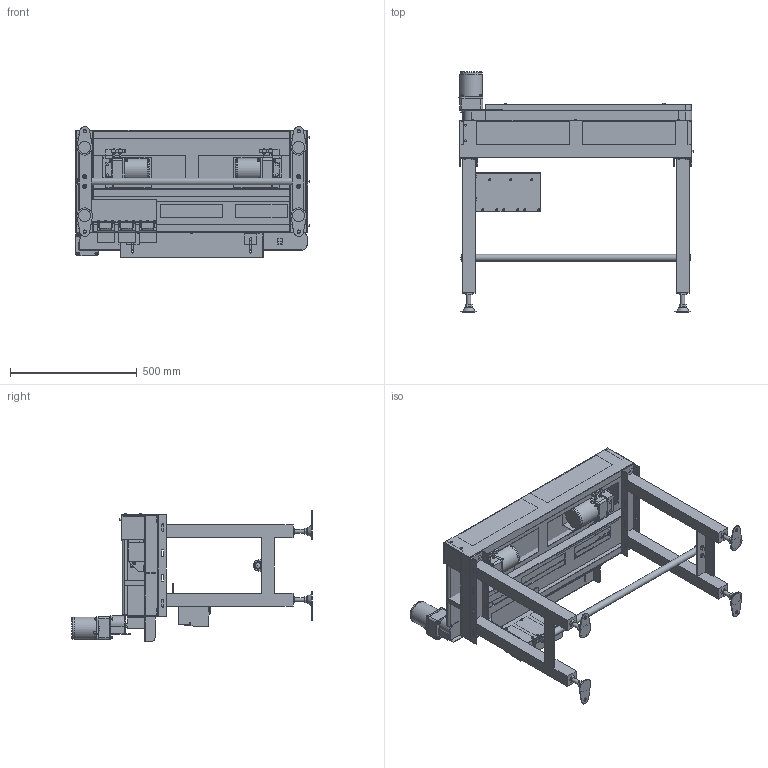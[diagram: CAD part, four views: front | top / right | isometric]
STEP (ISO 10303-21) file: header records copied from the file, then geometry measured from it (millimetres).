
FILE_DESCRIPTION( (''), '2;1');
FILE_NAME ('WEB-SGA-U-304x3-300-R-IVH-15-A.stp','2026-09-19T10:45:48',(''),(''),'spGate 21.9.5 (****-****-****-****)','','');
FILE_SCHEMA (('AUTOMOTIVE_DESIGN'));
Length unit declared in the file: millimetre
Products named in the file (91): WEB-SGA-U-304x3-300-R-IVH-15-A; TEMP_X_T-prt0; TEMP_X_T-prt1; TEMP_X_T-prt2; TEMP_X_T-prt3; TEMP_X_T-prt4; TEMP_X_T-prt5; TEMP_X_T-prt6; TEMP_X_T-prt7; TEMP_X_T-prt8; TEMP_X_T-prt9; TEMP_X_T-prt10; TEMP_X_T-prt11; TEMP_X_T-prt12; TEMP_X_T-prt13; TEMP_X_T-prt14; TEMP_X_T-prt15; TEMP_X_T-prt16; TEMP_X_T-prt17; TEMP_X_T-prt18; TEMP_X_T-prt19; TEMP_X_T-prt20; TEMP_X_T-prt21; TEMP_X_T-prt22; TEMP_X_T-prt23; TEMP_X_T-prt24; TEMP_X_T-prt25; TEMP_X_T-prt26; TEMP_X_T-prt27; TEMP_X_T-prt28; TEMP_X_T-prt29; TEMP_X_T-prt30; TEMP_X_T-prt31; TEMP_X_T-prt32; TEMP_X_T-prt33; TEMP_X_T-prt34; TEMP_X_T-prt35; TEMP_X_T-prt36; TEMP_X_T-prt37; TEMP_X_T-prt38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
Assembly tree (90 placements, depth 2):
  WEB-SGA-U-304x3-300-R-IVH-15-A
    TEMP_X_T-prt0
    TEMP_X_T-prt1
    TEMP_X_T-prt2
    TEMP_X_T-prt3
    TEMP_X_T-prt4
    TEMP_X_T-prt5
    TEMP_X_T-prt6
    TEMP_X_T-prt7
    TEMP_X_T-prt8
    TEMP_X_T-prt9
    TEMP_X_T-prt10
    TEMP_X_T-prt11
    TEMP_X_T-prt12
    TEMP_X_T-prt13
    TEMP_X_T-prt14
    TEMP_X_T-prt15
    TEMP_X_T-prt16
    TEMP_X_T-prt17
    TEMP_X_T-prt18
    TEMP_X_T-prt19
    TEMP_X_T-prt20
    TEMP_X_T-prt21
    TEMP_X_T-prt22
    TEMP_X_T-prt23
    TEMP_X_T-prt24
    TEMP_X_T-prt25
    TEMP_X_T-prt26
    TEMP_X_T-prt27
    TEMP_X_T-prt28
    TEMP_X_T-prt29
    TEMP_X_T-prt30
    TEMP_X_T-prt31
    TEMP_X_T-prt32
    TEMP_X_T-prt33
    TEMP_X_T-prt34
    TEMP_X_T-prt35
    TEMP_X_T-prt36
    TEMP_X_T-prt37
    TEMP_X_T-prt38
    TEMP_X_T-prt39
    TEMP_X_T-prt40
    TEMP_X_T-prt41
    TEMP_X_T-prt42
    TEMP_X_T-prt43
    TEMP_X_T-prt44
    TEMP_X_T-prt45
    TEMP_X_T-prt46
    TEMP_X_T-prt47
    TEMP_X_T-prt48
    TEMP_X_T-prt49
    TEMP_X_T-prt50
    TEMP_X_T-prt51
    TEMP_X_T-prt52
    TEMP_X_T-prt53
    TEMP_X_T-prt54
    TEMP_X_T-prt55
    TEMP_X_T-prt56
    TEMP_X_T-prt57
    TEMP_X_T-prt58
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Bounding box: 924.17 x 948 x 517 mm (x, y, z)
Volume: 22522852.5 mm3; surface area: 5040399.5 mm2
Topology: 90 solids, 91 shells, 2630 faces, 6766 edges, 4486 vertices
Faces by surface type: plane 1970, cylinder 458, bspline 202
Full cylindrical faces by diameter (mm): 2 x3, 3.3 x9, 4 x18, 5 x15, 5.5 x3, 6 x32, 6.5 x24, 6.6 x12, 7 x4, 8 x8, 8.49 x3, 10 x12, 10.5 x1, 12 x3, 12.5 x12, 13 x4, 16 x8, 17 x4, 20 x7, 22 x1, 27.2 x1, 28 x2, 36 x3, 40 x4, 50 x2, 83 x3, 84 x3, 86.3 x3, 89 x3
Entity records: 140153 total; most frequent: CARTESIAN_POINT 19616, ORIENTED_EDGE 13500, DIRECTION 12914, COLOUR_RGB 9470, PRESENTATION_STYLE_ASSIGNMENT 9470, STYLED_ITEM 9470, EDGE_CURVE 6750, DRAUGHTING_PRE_DEFINED_CURVE_FONT 6750
